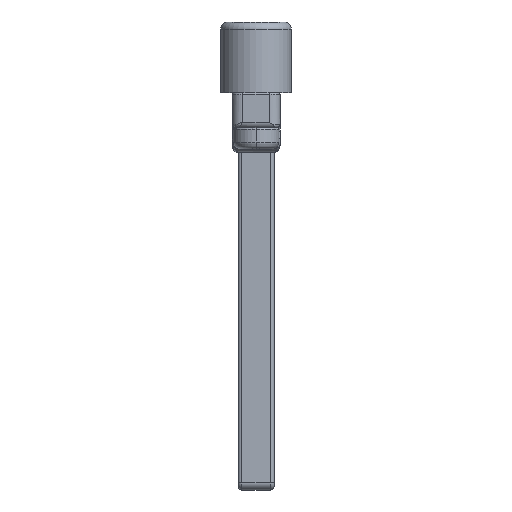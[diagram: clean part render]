
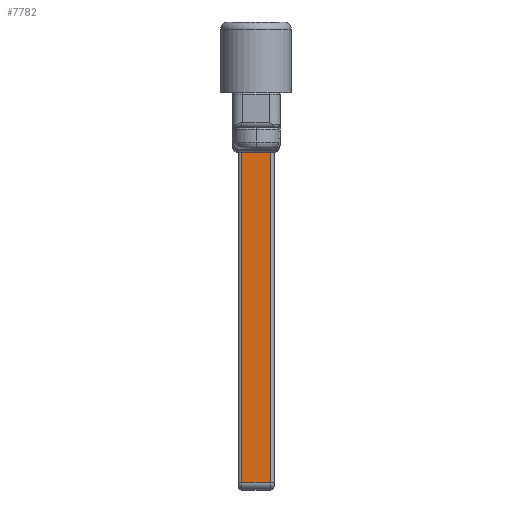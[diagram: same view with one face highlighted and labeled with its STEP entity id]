
A CAD part, front view. The second image highlights one B-rep face of the part: STEP entity #7782.
In plain terms, the highlighted planar face has unit normal (0, -1, 0).
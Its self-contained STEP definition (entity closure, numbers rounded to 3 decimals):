
#609 = PLANE ( 'NONE',  #8443 ) ;
#1244 = VERTEX_POINT ( 'NONE', #5187 ) ;
#1346 = CARTESIAN_POINT ( 'NONE',  ( -2.05, -3.5, -4.8 ) ) ;
#1894 = VECTOR ( 'NONE', #7274, 1000. ) ;
#2172 = VECTOR ( 'NONE', #2615, 1000. ) ;
#2425 = DIRECTION ( 'NONE',  ( -1., 0., 0. ) ) ;
#2594 = CARTESIAN_POINT ( 'NONE',  ( 2.05, -3.5, 55.039 ) ) ;
#2615 = DIRECTION ( 'NONE',  ( 0., 0., 1. ) ) ;
#2812 = LINE ( 'NONE', #8074, #9985 ) ;
#2846 = EDGE_CURVE ( 'NONE', #1244, #10709, #12111, .T. ) ;
#3528 = CARTESIAN_POINT ( 'NONE',  ( -2.05, -3.5, 55.039 ) ) ;
#3772 = EDGE_LOOP ( 'NONE', ( #3838, #4299, #4874, #5665 ) ) ;
#3838 = ORIENTED_EDGE ( 'NONE', *, *, #4583, .F. ) ;
#4075 = LINE ( 'NONE', #7234, #1894 ) ;
#4299 = ORIENTED_EDGE ( 'NONE', *, *, #4634, .T. ) ;
#4310 = FACE_OUTER_BOUND ( 'NONE', #3772, .T. ) ;
#4381 = DIRECTION ( 'NONE',  ( -1., 0., 0. ) ) ;
#4583 = EDGE_CURVE ( 'NONE', #8472, #10709, #4075, .T. ) ;
#4634 = EDGE_CURVE ( 'NONE', #8472, #4891, #6312, .T. ) ;
#4821 = CARTESIAN_POINT ( 'NONE',  ( -2.05, -3.5, 42. ) ) ;
#4874 = ORIENTED_EDGE ( 'NONE', *, *, #9804, .F. ) ;
#4891 = VERTEX_POINT ( 'NONE', #1346 ) ;
#5187 = CARTESIAN_POINT ( 'NONE',  ( 2.05, -3.5, -4.8 ) ) ;
#5665 = ORIENTED_EDGE ( 'NONE', *, *, #2846, .T. ) ;
#6256 = CARTESIAN_POINT ( 'NONE',  ( -2.55, -3.5, 55.039 ) ) ;
#6312 = LINE ( 'NONE', #3528, #10643 ) ;
#7234 = CARTESIAN_POINT ( 'NONE',  ( -7.45, -3.5, 42. ) ) ;
#7274 = DIRECTION ( 'NONE',  ( 1., 0., 0. ) ) ;
#7353 = DIRECTION ( 'NONE',  ( 0., 0., -1. ) ) ;
#7782 = ADVANCED_FACE ( 'NONE', ( #4310 ), #609, .F. ) ;
#7863 = CARTESIAN_POINT ( 'NONE',  ( 2.05, -3.5, 42. ) ) ;
#8074 = CARTESIAN_POINT ( 'NONE',  ( 54.527, -3.5, -4.8 ) ) ;
#8443 = AXIS2_PLACEMENT_3D ( 'NONE', #6256, #9986, #4381 ) ;
#8472 = VERTEX_POINT ( 'NONE', #4821 ) ;
#9804 = EDGE_CURVE ( 'NONE', #1244, #4891, #2812, .T. ) ;
#9985 = VECTOR ( 'NONE', #2425, 1000. ) ;
#9986 = DIRECTION ( 'NONE',  ( 0., 1., 0. ) ) ;
#10643 = VECTOR ( 'NONE', #7353, 1000. ) ;
#10709 = VERTEX_POINT ( 'NONE', #7863 ) ;
#12111 = LINE ( 'NONE', #2594, #2172 ) ;
